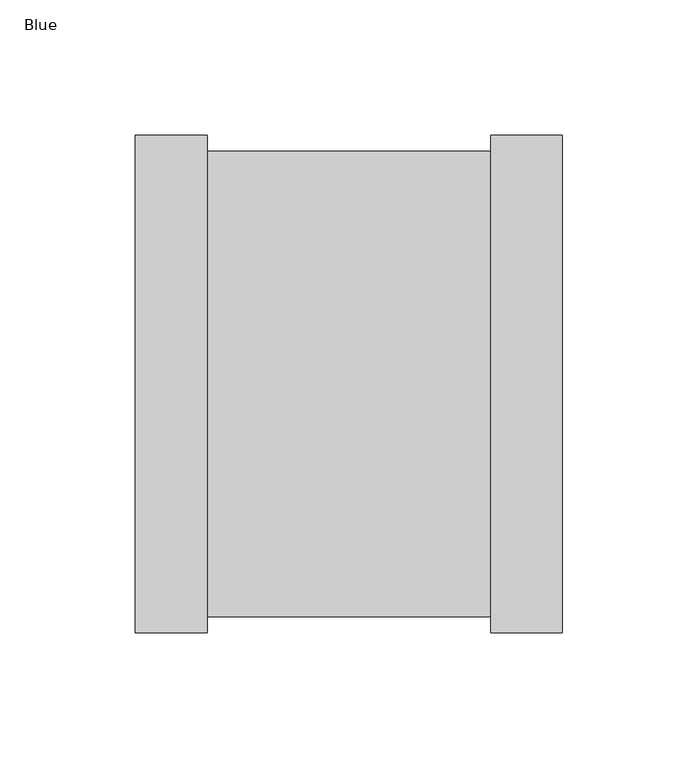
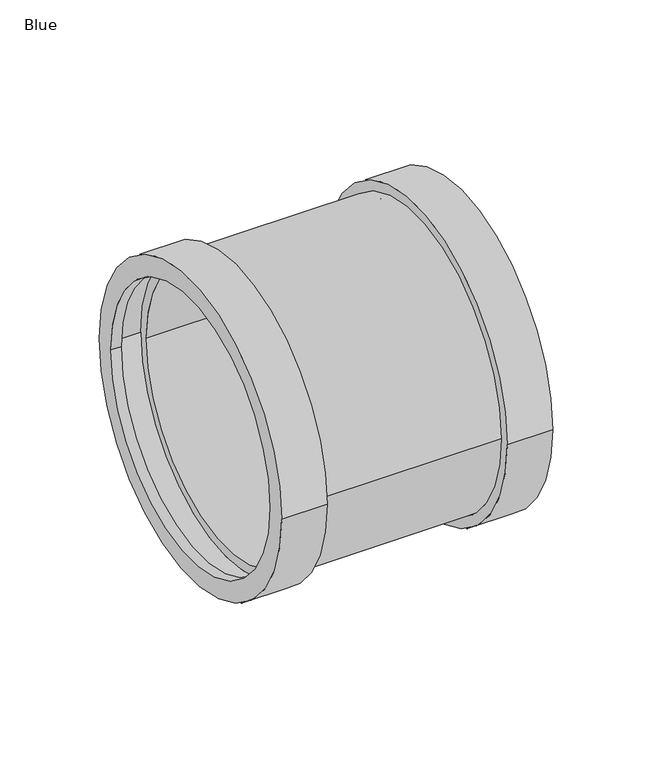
"""IFC4 building model written with IfcOpenShell, lengths in millimetres: pipe fitting geometry, AWADUKT PP Union USM : Blue."""

from ifc_helpers import new_model, si_unit, frame, origin, place, context, project, spatial, polyline, circle_curve, source, transform, mapped, element, save
from ifc_brep_helpers import plane_surface, cylinder_surface, revolved_surface, advanced_brep


def blue_9a590d53(model_context):
    return source(origin(), model_context, "Body", "AdvancedBrep", [
        advanced_brep(
        [(-58.2, 80.0, 0.0), (-58.2, -80.0, 0.0), (58.2, -80.0, 0.0), (58.2, 80.0, 0.0), (-72.95, 85.9, 0.0), (-72.95, -85.9, 0.0), (-58.2, -85.9, 0.0), (-58.2, 85.9, 0.0), (-78.85, 80.0, 0.0), (-78.85, -80.0, 0.0), (-72.95, -80.0, 0.0), (-72.95, 80.0, 0.0), (-52.3, 91.8, 0.0), (-52.3, -91.8, 0.0), (-78.85, -91.8, 0.0), (-78.85, 91.8, 0.0), (52.3, 85.9, 0.0), (52.3, -85.9, 0.0), (-52.3, -85.9, 0.0), (-52.3, 85.9, 0.0), (78.85, 91.8, 0.0), (78.85, -91.8, 0.0), (52.3, -91.8, 0.0), (52.3, 91.8, 0.0), (72.95, 80.0, 0.0), (72.95, -80.0, 0.0), (78.85, -80.0, 0.0), (78.85, 80.0, 0.0), (58.2, 85.9, 0.0), (58.2, -85.9, 0.0), (72.95, -85.9, 0.0), (72.95, 85.9, 0.0)],
        [
            (0, 1, circle_curve(frame((-58.2, 0.0, 0.0), z_axis=(-1.0, 0.0, 0.0), x_axis=(0.0, -1.0, 0.0)), 80.0)),
            (1, 2),
            (2, 3, circle_curve(frame((58.2, 0.0, 0.0), z_axis=(1.0, 0.0, 0.0), x_axis=(0.0, -1.0, 0.0)), 80.0)),
            (3, 0),
            (4, 5, circle_curve(frame((-72.95, 0.0, 0.0), z_axis=(-1.0, 0.0, 0.0), x_axis=(0.0, -1.0, 0.0)), 85.9)),
            (5, 6),
            (6, 7, circle_curve(frame((-58.2, 0.0, 0.0), z_axis=(1.0, 0.0, 0.0), x_axis=(0.0, -1.0, 0.0)), 85.9)),
            (7, 4),
            (8, 9, circle_curve(frame((-78.85, 0.0, 0.0), z_axis=(-1.0, 0.0, 0.0), x_axis=(0.0, -1.0, 0.0)), 80.0)),
            (9, 10),
            (10, 11, circle_curve(frame((-72.95, 0.0, 0.0), z_axis=(1.0, 0.0, 0.0), x_axis=(0.0, -1.0, 0.0)), 80.0)),
            (11, 8),
            (12, 13, circle_curve(frame((-52.3, 0.0, 0.0), z_axis=(-1.0, 0.0, 0.0), x_axis=(0.0, -1.0, 0.0)), 91.8)),
            (13, 14),
            (14, 15, circle_curve(frame((-78.85, 0.0, 0.0), z_axis=(1.0, 0.0, 0.0), x_axis=(0.0, -1.0, 0.0)), 91.8)),
            (15, 12),
            (16, 17, circle_curve(frame((52.3, 0.0, 0.0), z_axis=(-1.0, 0.0, 0.0), x_axis=(0.0, -1.0, 0.0)), 85.9)),
            (17, 18),
            (18, 19, circle_curve(frame((-52.3, 0.0, 0.0), z_axis=(1.0, 0.0, 0.0), x_axis=(0.0, -1.0, 0.0)), 85.9)),
            (19, 16),
            (20, 21, circle_curve(frame((78.85, 0.0, 0.0), z_axis=(-1.0, 0.0, 0.0), x_axis=(0.0, -1.0, 0.0)), 91.8)),
            (21, 22),
            (22, 23, circle_curve(frame((52.3, 0.0, 0.0), z_axis=(1.0, 0.0, 0.0), x_axis=(0.0, -1.0, 0.0)), 91.8)),
            (23, 20),
            (24, 25, circle_curve(frame((72.95, 0.0, 0.0), z_axis=(-1.0, 0.0, 0.0), x_axis=(0.0, -1.0, 0.0)), 80.0)),
            (25, 26),
            (26, 27, circle_curve(frame((78.85, 0.0, 0.0), z_axis=(1.0, 0.0, 0.0), x_axis=(0.0, -1.0, 0.0)), 80.0)),
            (27, 24),
            (28, 29, circle_curve(frame((58.2, 0.0, 0.0), z_axis=(-1.0, 0.0, 0.0), x_axis=(0.0, -1.0, 0.0)), 85.9)),
            (29, 30),
            (30, 31, circle_curve(frame((72.95, 0.0, 0.0), z_axis=(1.0, 0.0, 0.0), x_axis=(0.0, -1.0, 0.0)), 85.9)),
            (31, 28),
            (1, 0, circle_curve(frame((-58.2, 0.0, 0.0), z_axis=(-1.0, 0.0, 0.0), x_axis=(0.0, 1.0, 0.0)), 80.0)),
            (3, 2, circle_curve(frame((58.2, 0.0, 0.0), z_axis=(1.0, 0.0, 0.0), x_axis=(0.0, 1.0, 0.0)), 80.0)),
            (6, 7, circle_curve(frame((-58.2, 0.0, 0.0), z_axis=(-1.0, 0.0, 0.0), x_axis=(0.0, 1.0, 0.0)), 85.9)),
            (5, 4, circle_curve(frame((-72.95, 0.0, 0.0), z_axis=(-1.0, 0.0, 0.0), x_axis=(0.0, 1.0, 0.0)), 85.9)),
            (10, 11, circle_curve(frame((-72.95, 0.0, 0.0), z_axis=(-1.0, 0.0, 0.0), x_axis=(0.0, 1.0, 0.0)), 80.0)),
            (9, 8, circle_curve(frame((-78.85, 0.0, 0.0), z_axis=(-1.0, 0.0, 0.0), x_axis=(0.0, 1.0, 0.0)), 80.0)),
            (14, 15, circle_curve(frame((-78.85, 0.0, 0.0), z_axis=(-1.0, 0.0, 0.0), x_axis=(0.0, 1.0, 0.0)), 91.8)),
            (13, 12, circle_curve(frame((-52.3, 0.0, 0.0), z_axis=(-1.0, 0.0, 0.0), x_axis=(0.0, 1.0, 0.0)), 91.8)),
            (18, 19, circle_curve(frame((-52.3, 0.0, 0.0), z_axis=(-1.0, 0.0, 0.0), x_axis=(0.0, 1.0, 0.0)), 85.9)),
            (17, 16, circle_curve(frame((52.3, 0.0, 0.0), z_axis=(-1.0, 0.0, 0.0), x_axis=(0.0, 1.0, 0.0)), 85.9)),
            (22, 23, circle_curve(frame((52.3, 0.0, 0.0), z_axis=(-1.0, 0.0, 0.0), x_axis=(0.0, 1.0, 0.0)), 91.8)),
            (21, 20, circle_curve(frame((78.85, 0.0, 0.0), z_axis=(-1.0, 0.0, 0.0), x_axis=(0.0, 1.0, 0.0)), 91.8)),
            (26, 27, circle_curve(frame((78.85, 0.0, 0.0), z_axis=(-1.0, 0.0, 0.0), x_axis=(0.0, 1.0, 0.0)), 80.0)),
            (25, 24, circle_curve(frame((72.95, 0.0, 0.0), z_axis=(-1.0, 0.0, 0.0), x_axis=(0.0, 1.0, 0.0)), 80.0)),
            (30, 31, circle_curve(frame((72.95, 0.0, 0.0), z_axis=(-1.0, 0.0, 0.0), x_axis=(0.0, 1.0, 0.0)), 85.9)),
            (29, 28, circle_curve(frame((58.2, 0.0, 0.0), z_axis=(-1.0, 0.0, 0.0), x_axis=(0.0, 1.0, 0.0)), 85.9)),
        ],
        [
            revolved_surface(polyline([(58.2, -80.0, 0.0), (-58.2, -80.0, 0.0)]), (0.0, 0.0, 0.0), (1.0, 0.0, 0.0)),
            revolved_surface(polyline([(-58.2, -85.9, 0.0), (-72.95, -85.9, 0.0)]), (0.0, 0.0, 0.0), (1.0, 0.0, 0.0)),
            revolved_surface(polyline([(-72.95, -80.0, 0.0), (-78.85, -80.0, 0.0)]), (0.0, 0.0, 0.0), (1.0, 0.0, 0.0)),
            cylinder_surface(frame((0.0, 0.0, 0.0), z_axis=(1.0, 0.0, 0.0), x_axis=(0.0, -1.0, 0.0)), 91.8),
            cylinder_surface(frame((0.0, 0.0, 0.0), z_axis=(1.0, 0.0, 0.0), x_axis=(0.0, -1.0, 0.0)), 85.9),
            revolved_surface(polyline([(78.85, -80.0, 0.0), (72.95, -80.0, 0.0)]), (0.0, 0.0, 0.0), (1.0, 0.0, 0.0)),
            revolved_surface(polyline([(72.95, -85.9, 0.0), (58.2, -85.9, 0.0)]), (0.0, 0.0, 0.0), (1.0, 0.0, 0.0)),
            revolved_surface(polyline([(58.2, 80.0, 0.0), (-58.2, 80.0, 0.0)]), (0.0, 0.0, 0.0), (1.0, 0.0, 0.0)),
            plane_surface(frame((-58.2, 0.0, 0.0), z_axis=(-1.0, 0.0, 0.0), x_axis=(0.0, 1.0, 0.0))),
            revolved_surface(polyline([(-58.2, 85.9, 0.0), (-72.95, 85.9, 0.0)]), (0.0, 0.0, 0.0), (1.0, 0.0, 0.0)),
            plane_surface(frame((-72.95, 0.0, 0.0), z_axis=(1.0, 0.0, 0.0), x_axis=(0.0, 1.0, 0.0))),
            revolved_surface(polyline([(-72.95, 80.0, 0.0), (-78.85, 80.0, 0.0)]), (0.0, 0.0, 0.0), (1.0, 0.0, 0.0)),
            plane_surface(frame((-78.85, 0.0, 0.0), z_axis=(-1.0, 0.0, 0.0), x_axis=(0.0, 1.0, 0.0))),
            cylinder_surface(frame((0.0, 0.0, 0.0), z_axis=(1.0, 0.0, 0.0), x_axis=(0.0, 1.0, 0.0)), 91.8),
            plane_surface(frame((-52.3, 0.0, 0.0), z_axis=(1.0, 0.0, 0.0), x_axis=(0.0, 1.0, 0.0))),
            cylinder_surface(frame((0.0, 0.0, 0.0), z_axis=(1.0, 0.0, 0.0), x_axis=(0.0, 1.0, 0.0)), 85.9),
            plane_surface(frame((52.3, 0.0, 0.0), z_axis=(-1.0, 0.0, 0.0), x_axis=(0.0, 1.0, 0.0))),
            plane_surface(frame((78.85, 0.0, 0.0), z_axis=(1.0, 0.0, 0.0), x_axis=(0.0, 1.0, 0.0))),
            revolved_surface(polyline([(78.85, 80.0, 0.0), (72.95, 80.0, 0.0)]), (0.0, 0.0, 0.0), (1.0, 0.0, 0.0)),
            plane_surface(frame((72.95, 0.0, 0.0), z_axis=(-1.0, 0.0, 0.0), x_axis=(0.0, 1.0, 0.0))),
            revolved_surface(polyline([(72.95, 85.9, 0.0), (58.2, 85.9, 0.0)]), (0.0, 0.0, 0.0), (1.0, 0.0, 0.0)),
            plane_surface(frame((58.2, 0.0, 0.0), z_axis=(1.0, 0.0, 0.0), x_axis=(0.0, 1.0, 0.0))),
        ],
        [
            (0, [[1, 2, 3, 4]]),
            (1, [[5, 6, 7, 8]]),
            (2, [[9, 10, 11, 12]]),
            (3, [[13, 14, 15, 16]]),
            (4, [[17, 18, 19, 20]]),
            (3, [[21, 22, 23, 24]]),
            (5, [[25, 26, 27, 28]]),
            (6, [[29, 30, 31, 32]]),
            (7, [[33, -4, 34, -2]]),
            (8, [[35, -7], [-33, -1]]),
            (9, [[36, -8, -35, -6]]),
            (10, [[-36, -5], [37, -11]]),
            (11, [[38, -12, -37, -10]]),
            (12, [[39, -15], [-38, -9]]),
            (13, [[40, -16, -39, -14]]),
            (14, [[-40, -13], [41, -19]]),
            (15, [[42, -20, -41, -18]]),
            (16, [[43, -23], [-42, -17]]),
            (13, [[44, -24, -43, -22]]),
            (17, [[-44, -21], [45, -27]]),
            (18, [[46, -28, -45, -26]]),
            (19, [[47, -31], [-46, -25]]),
            (20, [[48, -32, -47, -30]]),
            (21, [[-48, -29], [-34, -3]]),
        ],
    ),
    ])


if __name__ == "__main__":
    model = new_model("IFC4")
    model_context = context("Model", 3, world=origin())
    ifc_project = project(units=[si_unit("LENGTHUNIT", "METRE", prefix="MILLI")], contexts=[model_context])
    site = spatial("IfcSite", under=ifc_project)
    building = spatial("IfcBuilding", under=site)
    placement = place(None, origin())
    blue_shape = blue_9a590d53(model_context)
    element("IfcPipeFitting", 1, ObjectType="AWADUKT PP Union USM : Blue", at=placement, inside=building, context=model_context, shape_type="MappedRepresentation", body=[
        mapped(blue_shape, transform((0.0, 0.0, 0.0), x_axis=(1.0, 0.0, 0.0), y_axis=(0.0, 1.0, 0.0), z_axis=(0.0, 0.0, 1.0))),
    ])
    save(model, "model.ifc")
